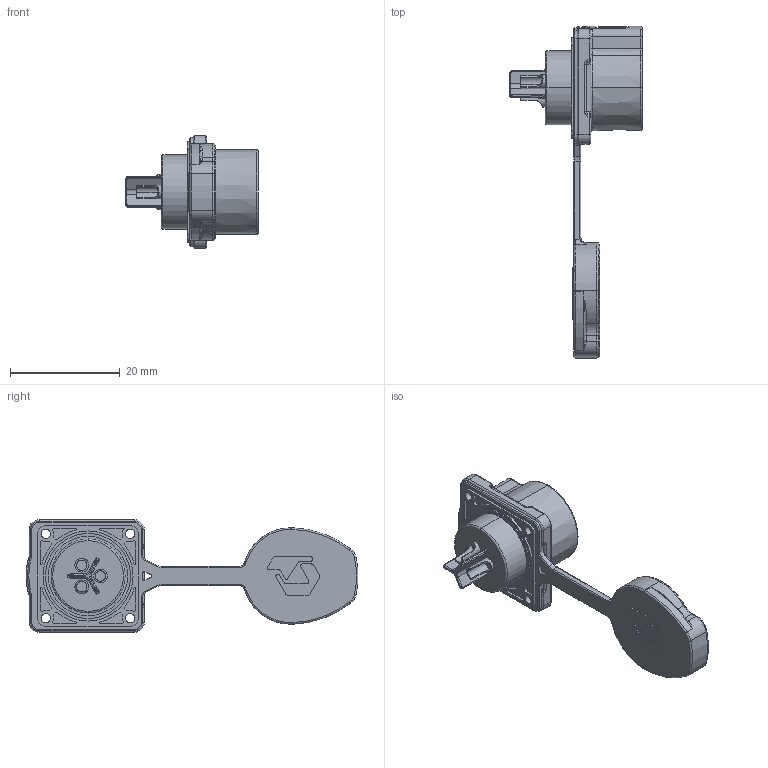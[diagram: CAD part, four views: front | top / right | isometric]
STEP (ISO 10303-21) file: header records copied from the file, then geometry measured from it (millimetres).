
FILE_DESCRIPTION (( 'STEP AP203' ), '1' );
FILE_NAME ('PLG14 3郋侐謂脣釱.STEP', '2025-09-27T02:24:57', ( '' ), ( '' ), 'SwSTEP 2.0', 'SolidWorks 2024', '' );
FILE_SCHEMA (( 'CONFIG_CONTROL_DESIGN' ));
Length unit declared in the file: millimetre
Products named in the file (1): PLG14 3芯四孔插座
Bounding box: 24.2 x 60.57 x 20.5 mm (x, y, z)
Volume: 3915.3 mm3; surface area: 4955.5 mm2
Topology: 1 solids, 5 shells, 1237 faces, 3070 edges, 1875 vertices
Faces by surface type: cylinder 442, plane 347, torus 208, bspline 173, cone 65, sphere 2
Entity records: 42507 total; most frequent: CARTESIAN_POINT 14225, ORIENTED_EDGE 6092, DIRECTION 5764, EDGE_CURVE 3046, AXIS2_PLACEMENT_3D 2274, VERTEX_POINT 1875, EDGE_LOOP 1305, ADVANCED_FACE 1237
